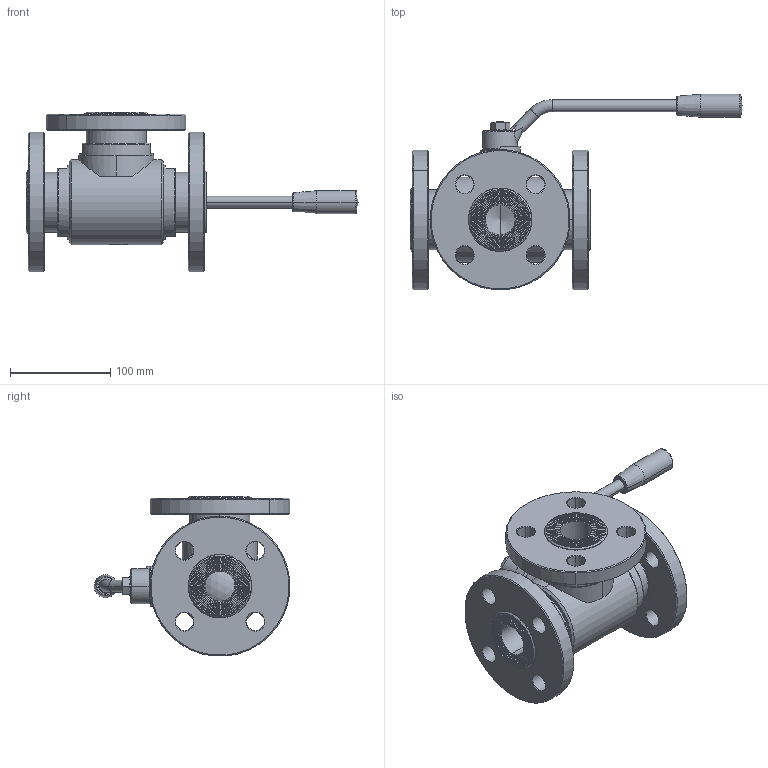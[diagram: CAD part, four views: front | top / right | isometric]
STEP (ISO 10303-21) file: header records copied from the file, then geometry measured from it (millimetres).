
FILE_DESCRIPTION((''),'2;1');
FILE_NAME('31015063010','2019-10-15T11:29:35',('UFFICIO TECNICO'),('CDM Tecnoconsulting'),'CREO PARAMETRIC BY PTC INC, 2019080','CREO PARAMETRIC BY PTC INC, 2019080','');
FILE_SCHEMA(('CONFIG_CONTROL_DESIGN','SHAPE_APPEARANCE_LAYERS_GROUPS'));
Length unit declared in the file: millimetre
Products named in the file (1): 31015063010
Bounding box: 331.5 x 195.23 x 159.73 mm (x, y, z)
Surface area: 210771.3 mm2 (no closed solid volume)
Topology: 0 solids, 48 shells, 498 faces, 1747 edges, 1298 vertices
Faces by surface type: cone 148, cylinder 117, plane 116, torus 66, bspline 37, extrusion 11, sphere 3
Entity records: 33645 total; most frequent: CARTESIAN_POINT 12627, DIRECTION 2890, ORIENTED_EDGE 2732, PRESENTATION_STYLE_ASSIGNMENT 1869, STYLED_ITEM 1773, CURVE_STYLE 1751, EDGE_CURVE 1740, VERTEX_POINT 1298
